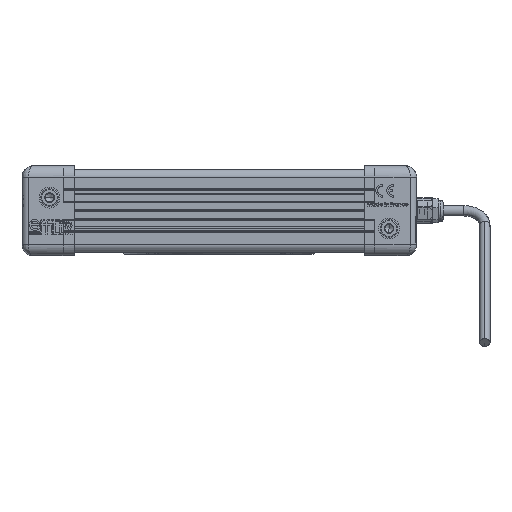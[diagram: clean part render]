
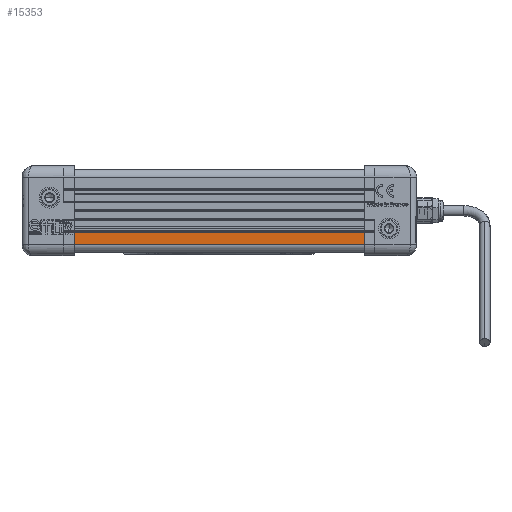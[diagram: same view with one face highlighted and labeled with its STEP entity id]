
A CAD part, front view. The second image highlights one B-rep face of the part: STEP entity #15353.
In plain terms, the highlighted planar face has unit normal (0, -1, 0) as drawn and (-1, 0, 0) by its records, which use the part's own axes.
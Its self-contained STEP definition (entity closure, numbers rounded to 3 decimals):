
#2051 = EDGE_CURVE ( 'NONE', #73226, #63906, #50626, .T. ) ;
#5561 = CARTESIAN_POINT ( 'NONE',  ( -9., -10.5, 0. ) ) ;
#8824 = DIRECTION ( 'NONE',  ( 0., 0., -1. ) ) ;
#13860 = LINE ( 'NONE', #48104, #51622 ) ;
#15353 = ADVANCED_FACE ( 'NONE', ( #69704 ), #58174, .F. ) ;
#17258 = DIRECTION ( 'NONE',  ( 1., 0., 0. ) ) ;
#18178 = ORIENTED_EDGE ( 'NONE', *, *, #50548, .T. ) ;
#18761 = VECTOR ( 'NONE', #8824, 1000. ) ;
#18876 = CARTESIAN_POINT ( 'NONE',  ( -9., -10.5, 0. ) ) ;
#19448 = DIRECTION ( 'NONE',  ( 0., -1., 0. ) ) ;
#21650 = CARTESIAN_POINT ( 'NONE',  ( -9., -16., 149. ) ) ;
#25707 = EDGE_CURVE ( 'NONE', #67457, #73226, #13860, .T. ) ;
#28223 = CARTESIAN_POINT ( 'NONE',  ( -9., -10.5, 149. ) ) ;
#29607 = VECTOR ( 'NONE', #39072, 1000. ) ;
#33041 = EDGE_CURVE ( 'NONE', #67457, #44634, #47917, .T. ) ;
#35115 = CARTESIAN_POINT ( 'NONE',  ( -9., -10.5, 149. ) ) ;
#36379 = VECTOR ( 'NONE', #56899, 1000. ) ;
#39072 = DIRECTION ( 'NONE',  ( 0., 0., -1. ) ) ;
#39763 = LINE ( 'NONE', #5561, #36379 ) ;
#44634 = VERTEX_POINT ( 'NONE', #18876 ) ;
#46302 = DIRECTION ( 'NONE',  ( 0., 1., 0. ) ) ;
#47917 = LINE ( 'NONE', #65415, #18761 ) ;
#48104 = CARTESIAN_POINT ( 'NONE',  ( -9., -10.5, 149. ) ) ;
#49028 = ORIENTED_EDGE ( 'NONE', *, *, #25707, .F. ) ;
#49875 = CARTESIAN_POINT ( 'NONE',  ( -9., -16., 0. ) ) ;
#50548 = EDGE_CURVE ( 'NONE', #44634, #63906, #39763, .T. ) ;
#50626 = LINE ( 'NONE', #21650, #29607 ) ;
#51287 = ORIENTED_EDGE ( 'NONE', *, *, #33041, .T. ) ;
#51622 = VECTOR ( 'NONE', #19448, 1000. ) ;
#53682 = CARTESIAN_POINT ( 'NONE',  ( -9., -16., 149. ) ) ;
#56899 = DIRECTION ( 'NONE',  ( 0., -1., 0. ) ) ;
#58174 = PLANE ( 'NONE',  #62831 ) ;
#61126 = EDGE_LOOP ( 'NONE', ( #18178, #68631, #49028, #51287 ) ) ;
#62831 = AXIS2_PLACEMENT_3D ( 'NONE', #35115, #17258, #46302 ) ;
#63906 = VERTEX_POINT ( 'NONE', #49875 ) ;
#65415 = CARTESIAN_POINT ( 'NONE',  ( -9., -10.5, 149. ) ) ;
#67457 = VERTEX_POINT ( 'NONE', #28223 ) ;
#68631 = ORIENTED_EDGE ( 'NONE', *, *, #2051, .F. ) ;
#69704 = FACE_OUTER_BOUND ( 'NONE', #61126, .T. ) ;
#73226 = VERTEX_POINT ( 'NONE', #53682 ) ;
